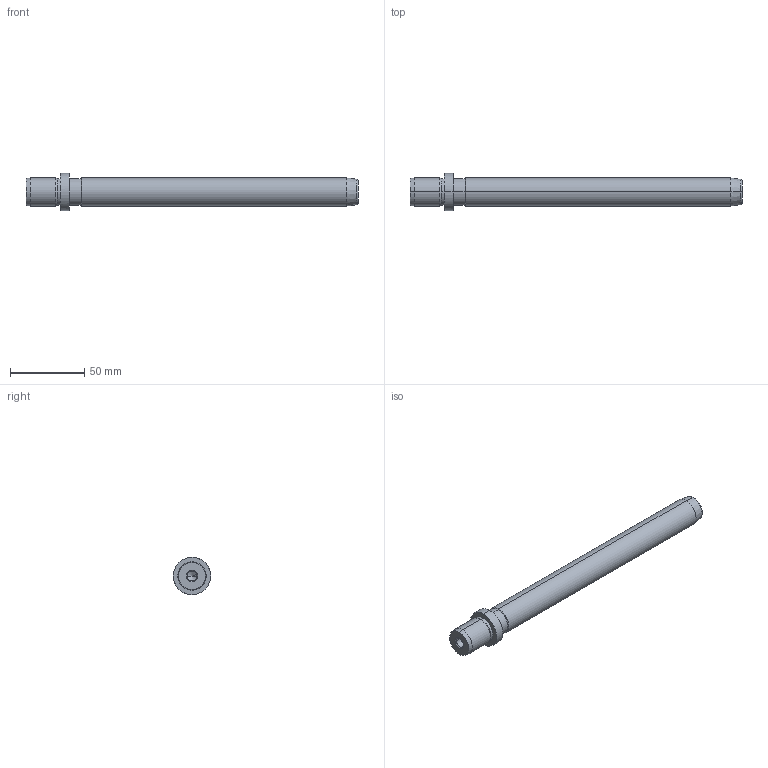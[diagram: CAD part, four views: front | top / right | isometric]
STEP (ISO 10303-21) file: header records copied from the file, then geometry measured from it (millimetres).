
FILE_DESCRIPTION(('CATIA V5 STEP Exchange'),'2;1');
FILE_NAME('C:\Users\Utente\Desktop\IO LAVORO\3D X SITO CF\X SITO\718\718-19x200.stp','2021-01-02T15:33:57+00:00',('none'),('none'),'CATIA Version 5 Release 20 GA (IN-10)','CATIA V5 STEP AP203','none');
FILE_SCHEMA(('CONFIG_CONTROL_DESIGN'));
Length unit declared in the file: millimetre
Products named in the file (1): 718-19x200
Bounding box: 223 x 25 x 25 mm (x, y, z)
Volume: 62167.7 mm3; surface area: 15324.2 mm2
Topology: 1 solids, 1 shells, 36 faces, 100 edges, 66 vertices
Faces by surface type: cone 16, cylinder 14, plane 4, torus 2
Entity records: 1285 total; most frequent: CARTESIAN_POINT 356, ORIENTED_EDGE 192, DIRECTION 157, EDGE_CURVE 96, AXIS2_PLACEMENT_3D 92, VERTEX_POINT 66, CIRCLE 55, EDGE_LOOP 40
